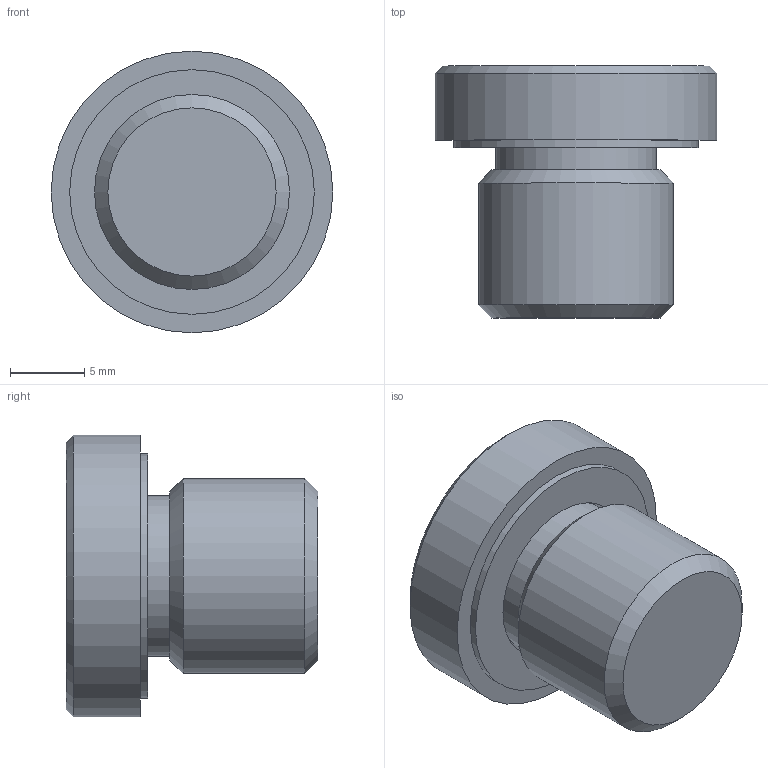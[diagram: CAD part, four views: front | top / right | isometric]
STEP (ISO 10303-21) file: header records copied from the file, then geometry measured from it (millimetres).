
FILE_DESCRIPTION( ( 'STEP AP203' ), '1' );
FILE_NAME( 'C:/Temp/Ganter_Step_05_03_2020/data/3_5/gn749/gn749_a/Threaded plug GN 749-G1_4-A.stp', '2020-03-12T13:41:33', ( 'License CC BY-ND 4.0' ), ( 'CADENAS' ), ' ', 'PARTsolutions', ' ' );
FILE_SCHEMA( ( 'CONFIG_CONTROL_DESIGN' ) );
Length unit declared in the file: millimetre
Products named in the file (1): _Threaded plug GN 749-G1/4-A
Bounding box: 19 x 17 x 19 mm (x, y, z)
Volume: 2830.6 mm3; surface area: 1513.7 mm2
Topology: 1 solids, 1 shells, 21 faces, 41 edges, 27 vertices
Faces by surface type: plane 13, cylinder 5, cone 3
Full cylindrical faces by diameter (mm): 10.857 x1, 11.257 x1, 13.157 x1, 16.5 x1, 19 x1
Entity records: 526 total; most frequent: DIRECTION 88, CARTESIAN_POINT 78, ORIENTED_EDGE 62, AXIS2_PLACEMENT_3D 35, EDGE_LOOP 34, EDGE_CURVE 31, FACE_OUTER_BOUND 26, VERTEX_POINT 25
